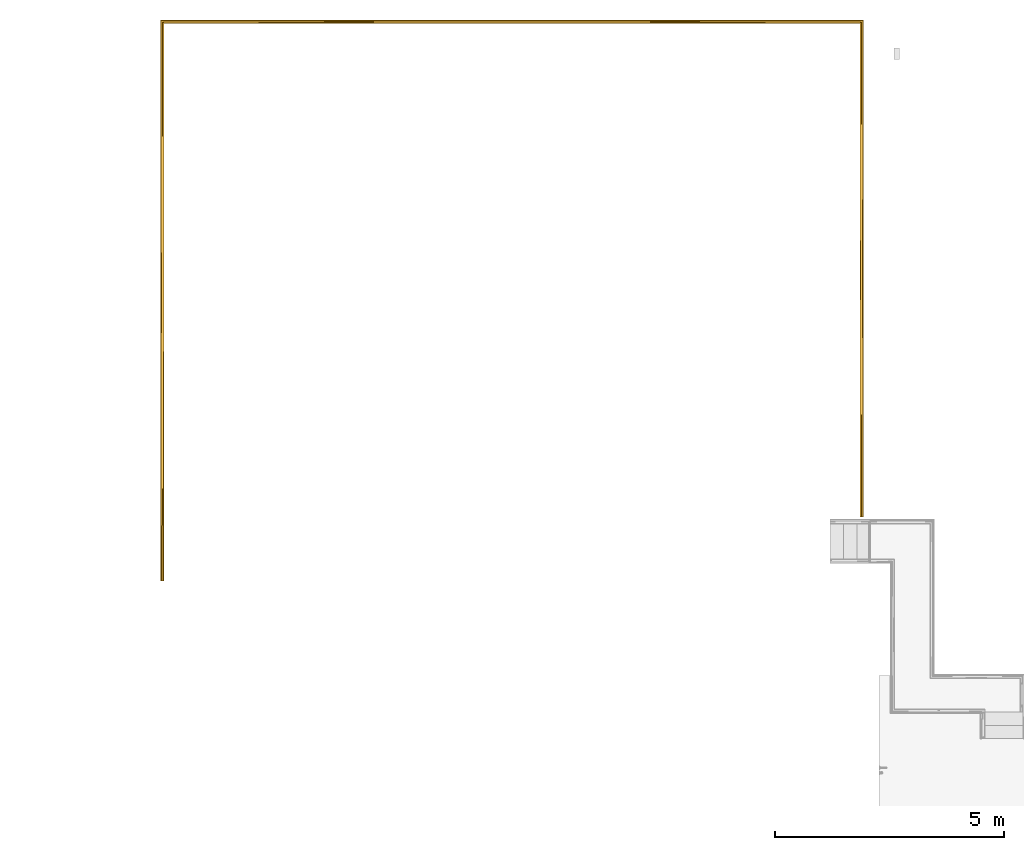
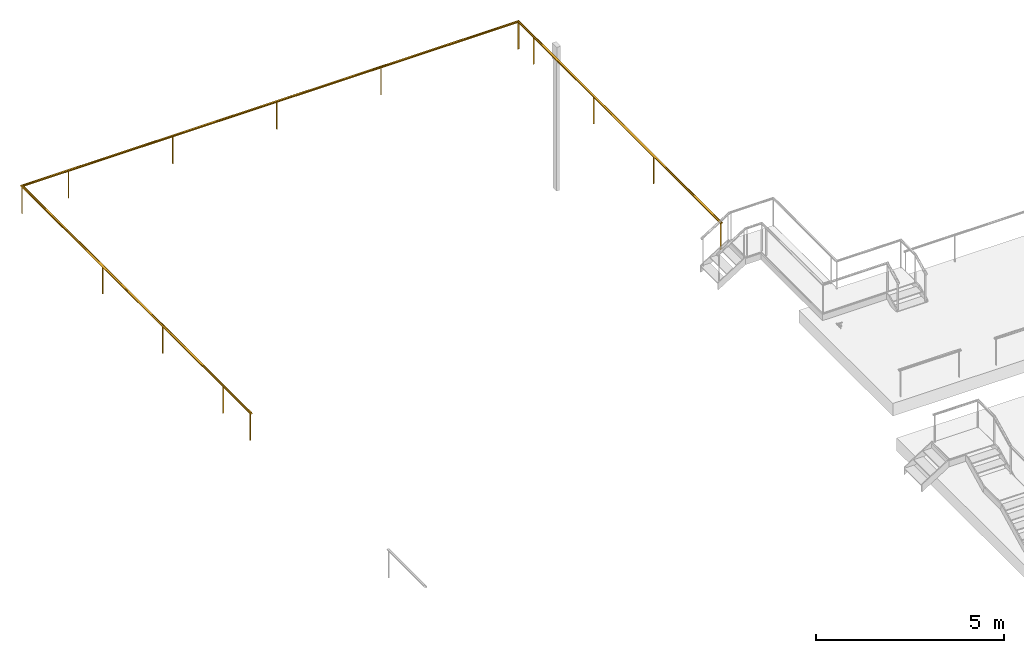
# One storey, part 12 of 15: 1 railing.
"""IFC2X3 building model written with IfcOpenShell, lengths in centimetres."""

from ifc_helpers import new_model, entity, si_unit, converted_unit, derived_unit, direction, frame, origin, place, context, subcontext, project, spatial, faceted_brep, material, material_list, element, save


model = new_model("IFC2X3")

# Units and contexts
model_context = context("Model", 3, precision=0.001, world=origin(), true_north=direction((6.12303176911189e-17, 1.0)))
body_context = subcontext(model_context, "Body", "Model", "MODEL_VIEW")
ifc_project = project(units=[si_unit("LENGTHUNIT", "METRE", prefix="CENTI"), si_unit("AREAUNIT", "SQUARE_METRE"), si_unit("VOLUMEUNIT", "CUBIC_METRE"), converted_unit("PLANEANGLEUNIT", "DEGREE", entity("IfcRatioMeasure", 0.0174532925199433), si_unit("PLANEANGLEUNIT", "RADIAN"), dimensions=[0, 0, 0, 0, 0, 0, 0]), si_unit("MASSUNIT", "GRAM", prefix="KILO"), si_unit("TIMEUNIT", "SECOND"), si_unit("FREQUENCYUNIT", "HERTZ"), si_unit("THERMODYNAMICTEMPERATUREUNIT", "DEGREE_CELSIUS"), derived_unit("THERMALTRANSMITTANCEUNIT", [(si_unit("MASSUNIT", "GRAM", prefix="KILO"), 1), (si_unit("THERMODYNAMICTEMPERATUREUNIT", "KELVIN"), -1), (si_unit("TIMEUNIT", "SECOND"), -3)]), derived_unit("VOLUMETRICFLOWRATEUNIT", [(si_unit("LENGTHUNIT", "METRE"), 3), (si_unit("TIMEUNIT", "SECOND"), -1)]), si_unit("ELECTRICCURRENTUNIT", "AMPERE"), si_unit("ELECTRICVOLTAGEUNIT", "VOLT"), si_unit("POWERUNIT", "WATT"), si_unit("FORCEUNIT", "NEWTON", prefix="KILO"), si_unit("ILLUMINANCEUNIT", "LUX"), si_unit("LUMINOUSFLUXUNIT", "LUMEN"), si_unit("LUMINOUSINTENSITYUNIT", "CANDELA"), derived_unit("USERDEFINED", [(si_unit("MASSUNIT", "GRAM", prefix="KILO"), -1), (si_unit("LENGTHUNIT", "METRE"), -2), (si_unit("TIMEUNIT", "SECOND"), 3), (si_unit("LUMINOUSFLUXUNIT", "LUMEN"), 1)]), derived_unit("LINEARVELOCITYUNIT", [(si_unit("LENGTHUNIT", "METRE"), 1), (si_unit("TIMEUNIT", "SECOND"), -1)]), si_unit("PRESSUREUNIT", "PASCAL"), derived_unit("USERDEFINED", [(si_unit("LENGTHUNIT", "METRE"), -2), (si_unit("MASSUNIT", "GRAM", prefix="KILO"), 1), (si_unit("TIMEUNIT", "SECOND"), -2)])], contexts=[model_context])

# Site, building, storey
site_placement = place(None, frame((8.62739174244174, -249.285249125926, 0.0)))
site = spatial("IfcSite", under=ifc_project, at=site_placement, Name="Default", CompositionType="ELEMENT")
building_placement = place(site_placement, origin())
building = spatial("IfcBuilding", under=site, at=building_placement, CompositionType="ELEMENT")
storey_placement = place(building_placement, frame((0.0, 0.0, 801.0)))
storey = spatial("IfcBuildingStorey", under=building, at=storey_placement, Name="Acrotère E3", CompositionType="ELEMENT", Elevation=801.0)

# Railing
ifc_material_1 = material(Name="Peinture - Grise")
ifc_material_2 = material(Name="Pin (1)")
ifc_material_list = material_list([ifc_material_1, ifc_material_2])
railing_placement = place(storey_placement, frame((1484.7453005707, 6301.27721544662, 20.0)))
element("IfcRailing", 1, at=railing_placement, inside=storey, material=ifc_material_list, Name="Garde-corps:Type Bateau", ObjectType="Garde-corps:Type Bateau", PredefinedType="NOTDEFINED", context=body_context, shape_type="Brep", body=[
    faceted_brep([(6.15952722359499, 149.749667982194, 86.9846532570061), (6.15952722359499, 150.949667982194, 86.9846532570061), (2.15952722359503, 150.949667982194, 86.9846532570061), (2.15952722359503, 149.749667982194, 86.9846532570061), (6.15952722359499, 149.749667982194, 0.0), (2.15952722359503, 149.749667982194, 0.0), (2.15952722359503, 150.949667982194, 0.0), (6.15952722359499, 150.949667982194, 0.0)], [[[0, 1, 2, 3]], [[4, 5, 6, 7]], [[1, 0, 4, 7]], [[2, 1, 7, 6]], [[3, 2, 6, 5]], [[0, 3, 5, 4]]]),
    faceted_brep([(6.15952722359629, 469.749667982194, 86.9846532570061), (6.15952722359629, 470.949667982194, 86.9846532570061), (2.15952722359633, 470.949667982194, 86.9846532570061), (2.15952722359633, 469.749667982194, 86.9846532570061), (6.15952722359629, 469.749667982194, 0.0), (2.15952722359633, 469.749667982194, 0.0), (2.15952722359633, 470.949667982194, 0.0), (6.15952722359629, 470.949667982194, 0.0)], [[[0, 1, 2, 3]], [[4, 5, 6, 7]], [[1, 0, 4, 7]], [[2, 1, 7, 6]], [[3, 2, 6, 5]], [[0, 3, 5, 4]]]),
    faceted_brep([(6.15952722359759, 789.749667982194, 86.9846532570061), (6.15952722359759, 790.949667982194, 86.9846532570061), (2.15952722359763, 790.949667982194, 86.9846532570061), (2.15952722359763, 789.749667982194, 86.9846532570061), (6.15952722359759, 789.749667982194, 0.0), (2.15952722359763, 789.749667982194, 0.0), (2.15952722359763, 790.949667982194, 0.0), (6.15952722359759, 790.949667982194, 0.0)], [[[0, 1, 2, 3]], [[4, 5, 6, 7]], [[1, 0, 4, 7]], [[2, 1, 7, 6]], [[3, 2, 6, 5]], [[0, 3, 5, 4]]]),
    faceted_brep([(146.809527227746, 1218.69933596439, 86.9846532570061), (148.009527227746, 1218.69933596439, 86.9846532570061), (148.009527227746, 1222.69933596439, 86.9846532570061), (146.809527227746, 1222.69933596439, 86.9846532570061), (146.809527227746, 1218.69933596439, 0.0), (146.809527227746, 1222.69933596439, 0.0), (148.009527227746, 1222.69933596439, 0.0), (148.009527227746, 1218.69933596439, 0.0)], [[[0, 1, 2, 3]], [[4, 5, 6, 7]], [[1, 0, 4, 7]], [[2, 1, 7, 6]], [[3, 2, 6, 5]], [[0, 3, 5, 4]]]),
    faceted_brep([(466.809527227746, 1218.69933596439, 86.9846532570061), (468.009527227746, 1218.69933596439, 86.9846532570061), (468.009527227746, 1222.69933596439, 86.9846532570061), (466.809527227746, 1222.69933596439, 86.9846532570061), (466.809527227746, 1218.69933596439, 0.0), (466.809527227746, 1222.69933596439, 0.0), (468.009527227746, 1222.69933596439, 0.0), (468.009527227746, 1218.69933596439, 0.0)], [[[0, 1, 2, 3]], [[4, 5, 6, 7]], [[1, 0, 4, 7]], [[2, 1, 7, 6]], [[3, 2, 6, 5]], [[0, 3, 5, 4]]]),
    faceted_brep([(786.809527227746, 1218.69933596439, 86.9846532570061), (788.009527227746, 1218.69933596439, 86.9846532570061), (788.009527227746, 1222.69933596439, 86.9846532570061), (786.809527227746, 1222.69933596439, 86.9846532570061), (786.809527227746, 1218.69933596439, 0.0), (786.809527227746, 1222.69933596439, 0.0), (788.009527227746, 1222.69933596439, 0.0), (788.009527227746, 1218.69933596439, 0.0)], [[[0, 1, 2, 3]], [[4, 5, 6, 7]], [[1, 0, 4, 7]], [[2, 1, 7, 6]], [[3, 2, 6, 5]], [[0, 3, 5, 4]]]),
    faceted_brep([(1106.80952722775, 1218.69933596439, 86.9846532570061), (1108.00952722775, 1218.69933596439, 86.9846532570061), (1108.00952722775, 1222.69933596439, 86.9846532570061), (1106.80952722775, 1222.69933596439, 86.9846532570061), (1106.80952722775, 1218.69933596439, 0.0), (1106.80952722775, 1222.69933596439, 0.0), (1108.00952722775, 1222.69933596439, 0.0), (1108.00952722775, 1218.69933596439, 0.0)], [[[0, 1, 2, 3]], [[4, 5, 6, 7]], [[1, 0, 4, 7]], [[2, 1, 7, 6]], [[3, 2, 6, 5]], [[0, 3, 5, 4]]]),
    faceted_brep([(1528.65952723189, 1140.54977092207, 86.9846532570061), (1528.65952723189, 1139.34977092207, 86.9846532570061), (1532.65952723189, 1139.34977092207, 86.9846532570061), (1532.65952723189, 1140.54977092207, 86.9846532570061), (1528.65952723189, 1140.54977092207, 0.0), (1532.65952723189, 1140.54977092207, 0.0), (1532.65952723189, 1139.34977092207, 0.0), (1528.65952723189, 1139.34977092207, 0.0)], [[[0, 1, 2, 3]], [[4, 5, 6, 7]], [[1, 0, 4, 7]], [[2, 1, 7, 6]], [[3, 2, 6, 5]], [[0, 3, 5, 4]]]),
    faceted_brep([(1528.65952723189, 820.549770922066, 86.9846532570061), (1528.65952723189, 819.349770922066, 86.9846532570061), (1532.65952723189, 819.349770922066, 86.9846532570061), (1532.65952723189, 820.549770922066, 86.9846532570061), (1528.65952723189, 820.549770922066, 0.0), (1532.65952723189, 820.549770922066, 0.0), (1532.65952723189, 819.349770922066, 0.0), (1528.65952723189, 819.349770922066, 0.0)], [[[0, 1, 2, 3]], [[4, 5, 6, 7]], [[1, 0, 4, 7]], [[2, 1, 7, 6]], [[3, 2, 6, 5]], [[0, 3, 5, 4]]]),
    faceted_brep([(1528.65952723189, 500.549770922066, 86.9846532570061), (1528.65952723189, 499.349770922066, 86.9846532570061), (1532.65952723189, 499.349770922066, 86.9846532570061), (1532.65952723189, 500.549770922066, 86.9846532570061), (1528.65952723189, 500.549770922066, 0.0), (1532.65952723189, 500.549770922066, 0.0), (1532.65952723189, 499.349770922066, 0.0), (1528.65952723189, 499.349770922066, 0.0)], [[[0, 1, 2, 3]], [[4, 5, 6, 7]], [[1, 0, 4, 7]], [[2, 1, 7, 6]], [[3, 2, 6, 5]], [[0, 3, 5, 4]]]),
    faceted_brep([(3.55952722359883, 1218.69933596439, 86.9846532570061), (4.75952722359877, 1218.69933596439, 86.9846532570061), (4.75952722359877, 1222.69933596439, 86.9846532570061), (3.55952722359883, 1222.69933596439, 86.9846532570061), (3.55952722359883, 1218.69933596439, 0.0), (3.55952722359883, 1222.69933596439, 0.0), (4.75952722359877, 1222.69933596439, 0.0), (4.75952722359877, 1218.69933596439, 0.0)], [[[0, 1, 2, 3]], [[4, 5, 6, 7]], [[1, 0, 4, 7]], [[2, 1, 7, 6]], [[3, 2, 6, 5]], [[0, 3, 5, 4]]]),
    faceted_brep([(1528.65952723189, 1221.29933596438, 86.9846532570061), (1528.65952723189, 1220.09933596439, 86.9846532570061), (1532.65952723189, 1220.09933596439, 86.9846532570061), (1532.65952723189, 1221.29933596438, 86.9846532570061), (1528.65952723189, 1221.29933596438, 0.0), (1532.65952723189, 1221.29933596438, 0.0), (1532.65952723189, 1220.09933596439, 0.0), (1528.65952723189, 1220.09933596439, 0.0)], [[[0, 1, 2, 3]], [[4, 5, 6, 7]], [[1, 0, 4, 7]], [[2, 1, 7, 6]], [[3, 2, 6, 5]], [[0, 3, 5, 4]]]),
    faceted_brep([(6.15952722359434, 4.399999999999, 86.9846532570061), (6.15952722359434, 5.59999999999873, 86.9846532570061), (2.15952722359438, 5.59999999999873, 86.9846532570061), (2.15952722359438, 4.399999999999, 86.9846532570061), (6.15952722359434, 4.399999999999, 0.0), (2.15952722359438, 4.399999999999, 0.0), (2.15952722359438, 5.59999999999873, 0.0), (6.15952722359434, 5.59999999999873, 0.0)], [[[0, 1, 2, 3]], [[4, 5, 6, 7]], [[1, 0, 4, 7]], [[2, 1, 7, 6]], [[3, 2, 6, 5]], [[0, 3, 5, 4]]]),
    faceted_brep([(1528.65952723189, 144.800205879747, 86.9846532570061), (1528.65952723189, 143.600205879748, 86.9846532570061), (1532.65952723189, 143.600205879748, 86.9846532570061), (1532.65952723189, 144.800205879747, 86.9846532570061), (1528.65952723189, 144.800205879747, 0.0), (1532.65952723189, 144.800205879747, 0.0), (1532.65952723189, 143.600205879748, 0.0), (1528.65952723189, 143.600205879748, 0.0)], [[[0, 1, 2, 3]], [[4, 5, 6, 7]], [[1, 0, 4, 7]], [[2, 1, 7, 6]], [[3, 2, 6, 5]], [[0, 3, 5, 4]]]),
    faceted_brep([(1530.24141337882, 139.200205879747, 92.9835656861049), (1528.8324363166, 139.200205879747, 92.3734607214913), (1527.42345925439, 139.200205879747, 91.7633557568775), (1527.04149324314, 139.200205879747, 90.8816778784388), (1526.65952723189, 139.200205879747, 90.0), (1527.32126601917, 139.200205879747, 88.8852827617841), (1527.98300480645, 139.200205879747, 87.7705655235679), (1529.53032294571, 139.200205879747, 87.3934999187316), (1531.07764108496, 139.200205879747, 87.0164343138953), (1532.48661814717, 139.200205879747, 87.6265392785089), (1533.89559520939, 139.200205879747, 88.2366442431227), (1534.27756122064, 139.200205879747, 89.1183221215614), (1534.65952723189, 139.200205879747, 90.0), (1533.99778844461, 139.200205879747, 91.1147172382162), (1533.33604965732, 139.200205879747, 92.2294344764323), (1531.78873151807, 139.200205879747, 92.6065000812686), (1529.53032294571, 1219.5701316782, 87.3934999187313), (1531.07764108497, 1221.11744981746, 87.0164343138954), (1530.24141337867, 679.385168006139, 87.0164343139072), (1534.12032427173, 1224.16013300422, 88.7553779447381), (1534.0990686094, 681.567804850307, 88.4685383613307), (1533.89559520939, 1223.93540394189, 88.2366442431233), (1527.32126601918, 1217.36107475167, 88.8852827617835), (1527.98300480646, 1218.02281353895, 87.7705655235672), (1527.42391376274, 678.611511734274, 88.2361751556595), (1534.51128417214, 683.74738933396, 89.1908447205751), (1534.65952723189, 604.650410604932, 90.0), (1528.65952723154, 678.611508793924, 87.4019237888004), (1534.38992575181, 1224.4297344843, 89.377688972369), (1532.48261946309, 680.863316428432, 87.3297119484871), (1533.33709909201, 760.714451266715, 87.7712744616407), (1531.44976607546, 680.158827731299, 87.0591274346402), (1532.48661814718, 1222.52642687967, 87.6265392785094), (1526.92500887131, 678.28064429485, 88.9252804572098), (1534.65952723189, 1224.69933596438, 90.0), (1534.65952723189, 681.949770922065, 90.0), (1526.65952723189, 604.650592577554, 90.0), (1526.65952723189, 606.370225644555, 90.0), (1526.65952723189, 1216.69933596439, 90.0), (1534.27756122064, 1224.31736995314, 89.1183221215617), (1529.42502716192, 679.740713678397, 92.8535513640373), (1531.07764108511, 679.740714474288, 92.9835656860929), (1533.86492680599, 681.288034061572, 91.7945877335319), (1533.11703792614, 681.288032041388, 92.3670362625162), (1532.18831337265, 680.51437333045, 92.772243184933), (1533.33604965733, 1223.37585838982, 92.2294344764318), (1534.37911319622, 687.497699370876, 91.1034639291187), (1528.83243631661, 1218.8722450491, 92.3734607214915), (1528.52720355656, 655.045492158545, 92.5381927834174), (1527.04149324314, 1217.08130197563, 90.881677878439), (1526.76693740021, 741.314571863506, 90.6905477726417), (1527.09577124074, 678.331736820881, 91.362369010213), (1527.76028472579, 678.33173706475, 92.066844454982), (1531.78873151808, 1221.82854025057, 92.6065000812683), (1533.95632274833, 1223.99613148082, 91.1845673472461), (1530.24141337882, 1220.28122211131, 92.9835656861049), (1533.99778844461, 1224.0375971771, 91.1147172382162), (1527.42345925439, 1217.46326798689, 91.763355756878), (767.409528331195, 1218.70044253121, 87.4014448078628), (767.409524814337, 1217.46358872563, 88.2363131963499), (6.83604964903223, 1218.02281353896, 87.7705655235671), (767.40952259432, 1216.96598819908, 88.9229951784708), (982.109216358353, 1224.69933596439, 90.0), (767.409528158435, 1220.28249535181, 87.0163341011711), (5.2887315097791, 1219.57013167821, 87.3934999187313), (671.880694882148, 1224.58445546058, 89.286180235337), (767.409526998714, 1223.4140756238, 87.7967113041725), (0.923459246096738, 1223.93540394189, 88.2366442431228), (767.409527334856, 1224.20915603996, 88.5610232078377), (767.40952690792, 1221.93651475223, 87.1471012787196), (7.49778843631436, 1217.36107475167, 88.8852827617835), (0.612334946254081, 1224.24652824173, 88.9548008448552), (2.33243630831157, 1222.52642687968, 87.6265392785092), (3.74141337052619, 1221.11744981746, 87.0164343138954), (0.541493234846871, 1224.31736995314, 89.1183221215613), (0.15952722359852, 1224.69933596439, 90.0), (555.61388264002, 1224.69933596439, 90.0), (971.218099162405, 1216.69933596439, 90.0), (560.710474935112, 1216.69933596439, 90.0), (8.15952722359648, 1216.69933596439, 90.0), (767.409524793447, 1223.93572714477, 91.7630220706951), (767.409526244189, 1222.70044785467, 92.5975945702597), (767.409526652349, 1221.11872419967, 92.9834650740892), (3.03032293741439, 1221.82854025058, 92.6065000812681), (3.80398200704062, 1221.05488118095, 92.7950328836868), (4.57764107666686, 1220.28122211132, 92.9835656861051), (798.512435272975, 1224.54928142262, 90.8139901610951), (0.750970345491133, 1224.1078928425, 90.9963022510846), (767.409527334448, 1217.19180011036, 91.4421063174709), (767.409526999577, 1217.9805290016, 92.2004658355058), (7.39559520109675, 1217.46326798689, 91.7633557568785), (676.362624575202, 1216.81572278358, 90.7184157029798), (767.409527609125, 1219.46437563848, 92.8534393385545), (1.48300479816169, 1223.37585838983, 92.229434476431), (7.70434019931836, 1217.15452298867, 91.0506912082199), (5.98661813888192, 1218.87224504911, 92.3734607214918), (7.77756121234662, 1217.08130197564, 90.8816778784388), (0.821266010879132, 1224.03759717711, 91.1147172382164), (1.48300479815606, 0.0, 87.7705655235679), (3.03032293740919, 0.0, 87.3934999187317), (4.5776410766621, 0.0, 87.0164343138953), (5.28212960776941, 0.0, 87.3214867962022), (5.98661813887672, 0.0, 87.6265392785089), (7.39559520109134, 0.0, 88.2366442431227), (7.77756121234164, 0.0, 89.1183221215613), (8.1595272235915, 0.0, 90.0), (7.49778843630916, 0.0, 91.1147172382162), (6.83604964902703, 0.0, 92.2294344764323), (5.28873150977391, 0.0, 92.6065000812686), (3.741413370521, 0.0, 92.9835656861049), (2.33243630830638, 0.0, 92.3734607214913), (0.923459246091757, 0.0, 91.7633557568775), (0.541493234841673, 0.0, 90.8816778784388), (0.15952722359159, 0.0, 90.0), (0.489462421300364, 0.0, 89.4442150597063), (0.821266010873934, 0.0, 88.8852827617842), (7.96006169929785, 632.507728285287, 89.0644707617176), (7.49694650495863, 666.803647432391, 88.3463167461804), (6.75958074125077, 532.550777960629, 87.7202317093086), (5.78647379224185, 609.785065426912, 87.2593636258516), (4.28487478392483, 640.708214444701, 87.0014733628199), (3.17396388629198, 648.570217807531, 87.0924883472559), (1.23326679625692, 628.420712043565, 87.9546852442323), (0.595279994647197, 662.336257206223, 88.6383540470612), (0.270017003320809, 697.315523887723, 89.2997593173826), (2.15656357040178, 511.46627155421, 87.4032083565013), (0.159527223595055, 730.093151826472, 90.0), (0.159527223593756, 496.226178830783, 90.0), (8.15952722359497, 722.096540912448, 90.0), (8.15952722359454, 720.477310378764, 90.0), (0.42728509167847, 611.32400712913, 91.0791581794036), (0.923120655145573, 712.37553287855, 91.7630061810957), (1.68535251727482, 574.654546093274, 92.3572512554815), (2.65256894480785, 579.568088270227, 92.7789576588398), (4.15791980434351, 610.527440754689, 92.9999997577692), (6.31251326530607, 551.648025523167, 92.5283623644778), (5.29885138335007, 686.562864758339, 92.8757332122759), (7.76056168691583, 649.035075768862, 91.3060665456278), (7.15200926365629, 601.527113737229, 91.9906886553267)], [[[0, 1, 2, 3, 4, 5, 6, 7, 8, 9, 10, 11, 12, 13, 14, 15]], [[16, 17, 18]], [[19, 20, 21]], [[22, 23, 24]], [[25, 26, 12]], [[24, 6, 5]], [[7, 6, 27]], [[23, 16, 27]], [[20, 11, 10]], [[28, 26, 25]], [[29, 30, 9]], [[9, 31, 29]], [[32, 21, 30]], [[24, 5, 33]], [[7, 18, 8]], [[21, 20, 30]], [[10, 30, 20]], [[28, 34, 35, 26]], [[33, 4, 36, 37, 38]], [[32, 30, 29]], [[9, 30, 10]], [[25, 20, 19]], [[25, 11, 20]], [[32, 31, 17]], [[31, 32, 29]], [[18, 7, 27]], [[23, 27, 24]], [[31, 8, 18]], [[16, 18, 27]], [[24, 33, 22]], [[6, 24, 27]], [[5, 4, 33]], [[12, 11, 25]], [[25, 19, 39, 28]], [[17, 31, 18]], [[8, 31, 9]], [[22, 33, 38]], [[40, 0, 41]], [[42, 14, 13]], [[43, 14, 42]], [[44, 43, 45]], [[46, 42, 13]], [[47, 48, 40]], [[42, 45, 43]], [[15, 14, 44]], [[49, 50, 51]], [[12, 46, 13]], [[15, 41, 0]], [[51, 2, 52]], [[50, 49, 38]], [[53, 44, 45]], [[54, 45, 42]], [[40, 48, 1]], [[54, 42, 46]], [[40, 55, 47]], [[46, 12, 26, 35, 34]], [[46, 34, 56, 54]], [[50, 4, 3]], [[49, 51, 57]], [[57, 51, 52]], [[2, 51, 3]], [[50, 38, 37, 36, 4]], [[57, 52, 47]], [[52, 2, 1]], [[51, 50, 3]], [[41, 53, 55]], [[53, 41, 44]], [[55, 40, 41]], [[0, 40, 1]], [[43, 44, 14]], [[15, 44, 41]], [[48, 52, 1]], [[52, 48, 47]], [[58, 16, 23]], [[59, 60, 58]], [[22, 61, 59]], [[62, 34, 28, 39]], [[22, 38, 61]], [[17, 16, 63]], [[63, 58, 64]], [[22, 59, 23]], [[39, 65, 62]], [[66, 67, 68]], [[32, 66, 21]], [[68, 65, 39]], [[17, 69, 32]], [[70, 59, 61]], [[71, 68, 67]], [[21, 66, 68]], [[68, 39, 19, 21]], [[72, 69, 73]], [[66, 72, 67]], [[69, 72, 66]], [[65, 71, 74, 75]], [[71, 65, 68]], [[65, 75, 76, 62]], [[16, 58, 63]], [[58, 60, 64]], [[17, 63, 69]], [[63, 64, 73]], [[23, 59, 58]], [[60, 59, 70]], [[61, 38, 77, 78, 79]], [[63, 73, 69]], [[32, 69, 66]], [[70, 61, 79]], [[80, 81, 45]], [[77, 38, 49]], [[80, 45, 54, 56]], [[81, 82, 53]], [[82, 83, 84, 85]], [[86, 75, 87]], [[88, 57, 89]], [[90, 88, 89]], [[88, 91, 49]], [[92, 55, 82]], [[93, 83, 81]], [[47, 55, 92]], [[90, 94, 88]], [[57, 47, 89]], [[86, 34, 62, 76, 75]], [[92, 85, 95]], [[49, 91, 77]], [[56, 34, 86]], [[57, 88, 49]], [[89, 95, 90]], [[92, 95, 89]], [[91, 94, 96, 79]], [[94, 91, 88]], [[91, 79, 78, 77]], [[83, 82, 81]], [[82, 55, 53]], [[93, 81, 80]], [[81, 53, 45]], [[89, 47, 92]], [[85, 92, 82]], [[80, 87, 97, 93]], [[87, 80, 86]], [[56, 86, 80]], [[98, 99, 100, 101, 102, 103, 104, 105, 106, 107, 108, 109, 110, 111, 112, 113, 114, 115]], [[70, 116, 117]], [[116, 70, 79]], [[118, 102, 119]], [[101, 119, 102]], [[73, 120, 121]], [[119, 60, 118]], [[122, 98, 115]], [[122, 123, 67]], [[115, 124, 123]], [[125, 72, 121]], [[122, 115, 123]], [[123, 74, 71, 67]], [[124, 126, 75]], [[125, 122, 72]], [[114, 113, 127, 126]], [[60, 117, 118]], [[98, 122, 125]], [[124, 115, 114]], [[121, 120, 99]], [[122, 67, 72]], [[125, 99, 98]], [[99, 125, 121]], [[100, 99, 120]], [[73, 121, 72]], [[101, 100, 120]], [[120, 73, 64]], [[64, 60, 119]], [[120, 119, 101]], [[64, 119, 120]], [[118, 103, 102]], [[103, 118, 117]], [[74, 123, 124]], [[104, 117, 116]], [[70, 117, 60]], [[116, 79, 128, 129, 105]], [[104, 103, 117]], [[104, 116, 105]], [[74, 124, 75]], [[126, 124, 114]], [[130, 131, 97]], [[130, 112, 111]], [[93, 132, 133]], [[132, 110, 133]], [[84, 134, 85]], [[111, 132, 131]], [[135, 136, 108]], [[83, 93, 133, 84]], [[108, 136, 134]], [[130, 75, 126, 127]], [[137, 96, 94, 90]], [[93, 131, 132]], [[138, 135, 107]], [[136, 85, 134]], [[131, 93, 97]], [[106, 105, 129]], [[130, 97, 87, 75]], [[138, 95, 135]], [[127, 113, 112]], [[110, 132, 111]], [[133, 110, 109]], [[109, 108, 134]], [[133, 134, 84]], [[109, 134, 133]], [[136, 95, 85]], [[95, 136, 135]], [[90, 95, 138]], [[107, 135, 108]], [[96, 129, 128]], [[138, 107, 106]], [[106, 137, 138]], [[131, 130, 111]], [[137, 106, 129]], [[112, 130, 127]], [[138, 137, 90]], [[96, 137, 129]], [[96, 128, 79]]]),
])

save(model, "model.ifc")
